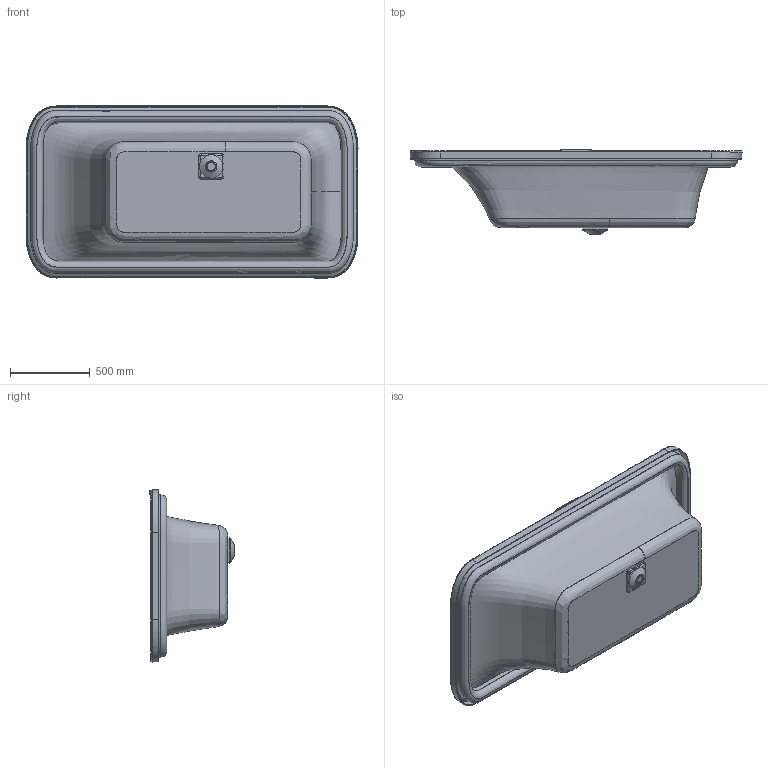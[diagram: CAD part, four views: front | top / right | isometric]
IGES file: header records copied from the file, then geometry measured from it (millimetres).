
Start section: SolidWorks IGES file using analytic representation for surfaces
Global section: file name: D:\Users\M.Szymanski\Desktop\Wanny\ergo-stripe\03. do przegrania\WP_ERGO_2075x1075.IGS; native system: SolidWorks 2011; preprocessor: SolidWorks 2011; author: M.Szymanski; date: 180920.123220; units: millimetre
Bounding box: 2075 x 531.36 x 1075 mm (x, y, z)
Surface area: 8791823.2 mm2 (no closed solid volume)
Topology: 0 solids, 0 shells, 257 faces, 4922 edges, 5413 vertices
Faces by surface type: bspline 166, revolution 91
